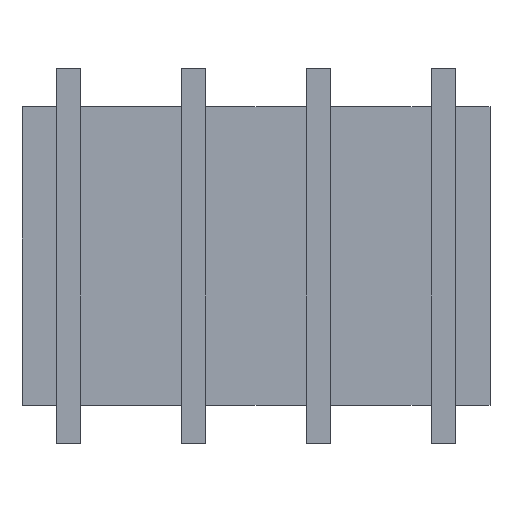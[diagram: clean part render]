
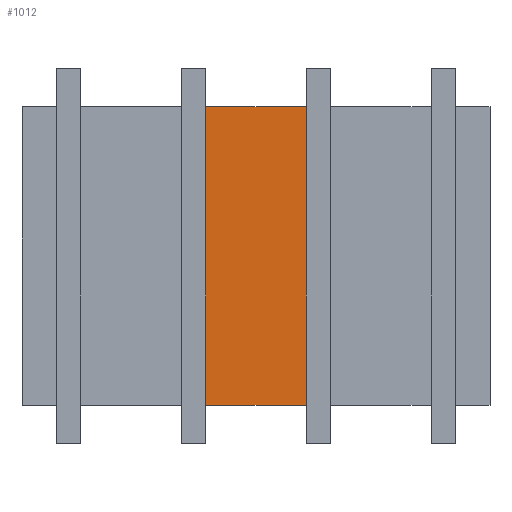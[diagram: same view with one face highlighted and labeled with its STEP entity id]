
A CAD part, top view. The second image highlights one B-rep face of the part: STEP entity #1012.
In plain terms, the highlighted planar face has unit normal (0, 0, 1).
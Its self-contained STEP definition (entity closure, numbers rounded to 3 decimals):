
#44 = PLANE('',#45);
#45 = AXIS2_PLACEMENT_3D('',#46,#47,#48);
#46 = CARTESIAN_POINT('',(-36.815,-23.5,-4.));
#47 = DIRECTION('',(0.,1.,0.));
#48 = DIRECTION('',(0.,0.,1.));
#100 = PLANE('',#101);
#101 = AXIS2_PLACEMENT_3D('',#102,#103,#104);
#102 = CARTESIAN_POINT('',(-36.815,23.5,-4.));
#103 = DIRECTION('',(0.,1.,0.));
#104 = DIRECTION('',(0.,0.,1.));
#245 = VERTEX_POINT('',#246);
#246 = CARTESIAN_POINT('',(-7.917,-23.5,4.));
#272 = EDGE_CURVE('',#245,#273,#275,.T.);
#273 = VERTEX_POINT('',#274);
#274 = CARTESIAN_POINT('',(7.917,-23.5,4.));
#275 = SURFACE_CURVE('',#276,(#280,#287),.PCURVE_S1.);
#276 = LINE('',#277,#278);
#277 = CARTESIAN_POINT('',(-36.815,-23.5,4.));
#278 = VECTOR('',#279,1.);
#279 = DIRECTION('',(1.,0.,0.));
#280 = PCURVE('',#44,#281);
#281 = DEFINITIONAL_REPRESENTATION('',(#282),#286);
#282 = LINE('',#283,#284);
#283 = CARTESIAN_POINT('',(8.,0.));
#284 = VECTOR('',#285,1.);
#285 = DIRECTION('',(0.,1.));
#286 = ( GEOMETRIC_REPRESENTATION_CONTEXT(2) 
PARAMETRIC_REPRESENTATION_CONTEXT() REPRESENTATION_CONTEXT('2D SPACE',''
  ) );
#287 = PCURVE('',#288,#293);
#288 = PLANE('',#289);
#289 = AXIS2_PLACEMENT_3D('',#290,#291,#292);
#290 = CARTESIAN_POINT('',(-36.815,-23.5,4.));
#291 = DIRECTION('',(0.,0.,1.));
#292 = DIRECTION('',(1.,0.,0.));
#293 = DEFINITIONAL_REPRESENTATION('',(#294),#298);
#294 = LINE('',#295,#296);
#295 = CARTESIAN_POINT('',(0.,0.));
#296 = VECTOR('',#297,1.);
#297 = DIRECTION('',(1.,0.));
#298 = ( GEOMETRIC_REPRESENTATION_CONTEXT(2) 
PARAMETRIC_REPRESENTATION_CONTEXT() REPRESENTATION_CONTEXT('2D SPACE',''
  ) );
#572 = VERTEX_POINT('',#573);
#573 = CARTESIAN_POINT('',(-7.917,23.5,4.));
#599 = EDGE_CURVE('',#572,#600,#602,.T.);
#600 = VERTEX_POINT('',#601);
#601 = CARTESIAN_POINT('',(7.917,23.5,4.));
#602 = SURFACE_CURVE('',#603,(#607,#614),.PCURVE_S1.);
#603 = LINE('',#604,#605);
#604 = CARTESIAN_POINT('',(-36.815,23.5,4.));
#605 = VECTOR('',#606,1.);
#606 = DIRECTION('',(1.,0.,0.));
#607 = PCURVE('',#100,#608);
#608 = DEFINITIONAL_REPRESENTATION('',(#609),#613);
#609 = LINE('',#610,#611);
#610 = CARTESIAN_POINT('',(8.,0.));
#611 = VECTOR('',#612,1.);
#612 = DIRECTION('',(0.,1.));
#613 = ( GEOMETRIC_REPRESENTATION_CONTEXT(2) 
PARAMETRIC_REPRESENTATION_CONTEXT() REPRESENTATION_CONTEXT('2D SPACE',''
  ) );
#614 = PCURVE('',#288,#615);
#615 = DEFINITIONAL_REPRESENTATION('',(#616),#620);
#616 = LINE('',#617,#618);
#617 = CARTESIAN_POINT('',(0.,47.));
#618 = VECTOR('',#619,1.);
#619 = DIRECTION('',(1.,0.));
#620 = ( GEOMETRIC_REPRESENTATION_CONTEXT(2) 
PARAMETRIC_REPRESENTATION_CONTEXT() REPRESENTATION_CONTEXT('2D SPACE',''
  ) );
#1000 = PLANE('',#1001);
#1001 = AXIS2_PLACEMENT_3D('',#1002,#1003,#1004);
#1002 = CARTESIAN_POINT('',(-7.917,-29.452,4.));
#1003 = DIRECTION('',(-1.,0.,0.));
#1004 = DIRECTION('',(0.,1.,0.));
#1012 = ADVANCED_FACE('',(#1013),#288,.T.);
#1013 = FACE_BOUND('',#1014,.T.);
#1014 = EDGE_LOOP('',(#1015,#1016,#1037,#1038));
#1015 = ORIENTED_EDGE('',*,*,#599,.F.);
#1016 = ORIENTED_EDGE('',*,*,#1017,.F.);
#1017 = EDGE_CURVE('',#245,#572,#1018,.T.);
#1018 = SURFACE_CURVE('',#1019,(#1023,#1030),.PCURVE_S1.);
#1019 = LINE('',#1020,#1021);
#1020 = CARTESIAN_POINT('',(-7.917,-29.452,4.));
#1021 = VECTOR('',#1022,1.);
#1022 = DIRECTION('',(0.,1.,0.));
#1023 = PCURVE('',#288,#1024);
#1024 = DEFINITIONAL_REPRESENTATION('',(#1025),#1029);
#1025 = LINE('',#1026,#1027);
#1026 = CARTESIAN_POINT('',(28.898,-5.952));
#1027 = VECTOR('',#1028,1.);
#1028 = DIRECTION('',(0.,1.));
#1029 = ( GEOMETRIC_REPRESENTATION_CONTEXT(2) 
PARAMETRIC_REPRESENTATION_CONTEXT() REPRESENTATION_CONTEXT('2D SPACE',''
  ) );
#1030 = PCURVE('',#1000,#1031);
#1031 = DEFINITIONAL_REPRESENTATION('',(#1032),#1036);
#1032 = LINE('',#1033,#1034);
#1033 = CARTESIAN_POINT('',(0.,0.));
#1034 = VECTOR('',#1035,1.);
#1035 = DIRECTION('',(1.,0.));
#1036 = ( GEOMETRIC_REPRESENTATION_CONTEXT(2) 
PARAMETRIC_REPRESENTATION_CONTEXT() REPRESENTATION_CONTEXT('2D SPACE',''
  ) );
#1037 = ORIENTED_EDGE('',*,*,#272,.T.);
#1038 = ORIENTED_EDGE('',*,*,#1039,.F.);
#1039 = EDGE_CURVE('',#600,#273,#1040,.T.);
#1040 = SURFACE_CURVE('',#1041,(#1045,#1052),.PCURVE_S1.);
#1041 = LINE('',#1042,#1043);
#1042 = CARTESIAN_POINT('',(7.917,29.452,4.));
#1043 = VECTOR('',#1044,1.);
#1044 = DIRECTION('',(0.,-1.,0.));
#1045 = PCURVE('',#288,#1046);
#1046 = DEFINITIONAL_REPRESENTATION('',(#1047),#1051);
#1047 = LINE('',#1048,#1049);
#1048 = CARTESIAN_POINT('',(44.732,52.952));
#1049 = VECTOR('',#1050,1.);
#1050 = DIRECTION('',(0.,-1.));
#1051 = ( GEOMETRIC_REPRESENTATION_CONTEXT(2) 
PARAMETRIC_REPRESENTATION_CONTEXT() REPRESENTATION_CONTEXT('2D SPACE',''
  ) );
#1052 = PCURVE('',#1053,#1058);
#1053 = PLANE('',#1054);
#1054 = AXIS2_PLACEMENT_3D('',#1055,#1056,#1057);
#1055 = CARTESIAN_POINT('',(7.917,29.452,4.));
#1056 = DIRECTION('',(1.,0.,-0.));
#1057 = DIRECTION('',(0.,-1.,0.));
#1058 = DEFINITIONAL_REPRESENTATION('',(#1059),#1063);
#1059 = LINE('',#1060,#1061);
#1060 = CARTESIAN_POINT('',(0.,0.));
#1061 = VECTOR('',#1062,1.);
#1062 = DIRECTION('',(1.,0.));
#1063 = ( GEOMETRIC_REPRESENTATION_CONTEXT(2) 
PARAMETRIC_REPRESENTATION_CONTEXT() REPRESENTATION_CONTEXT('2D SPACE',''
  ) );
